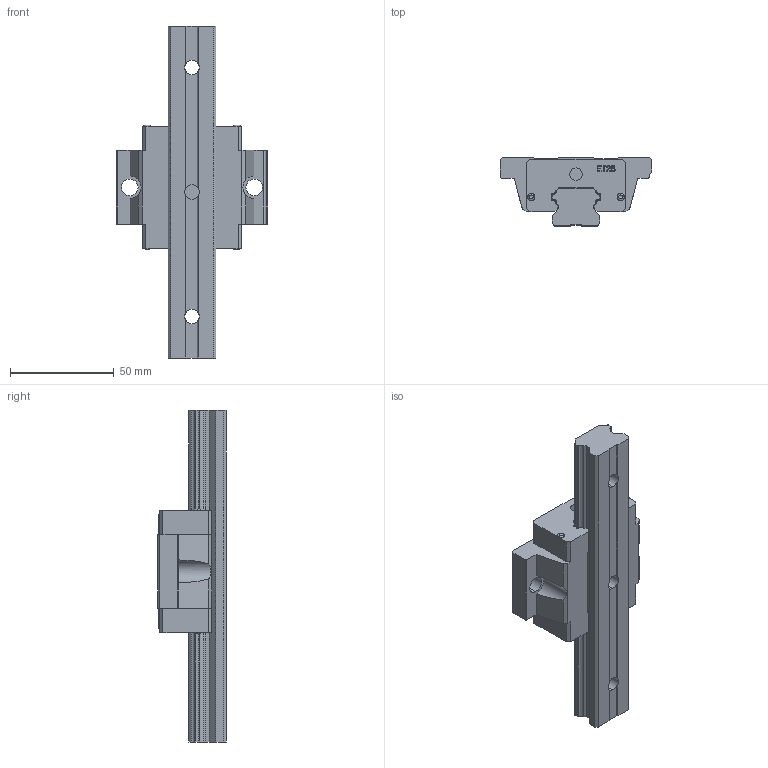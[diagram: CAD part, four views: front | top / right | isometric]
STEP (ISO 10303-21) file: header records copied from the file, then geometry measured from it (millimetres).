
FILE_DESCRIPTION (( 'STEP AP214' ), '1' );
FILE_NAME ('7.1033 Lineaarikelkka ETW25SA.STEP', '2026-03-12T11:13:06', ( '' ), ( '' ), 'SwSTEP 2.0', 'SolidWorks 2025', '' );
FILE_SCHEMA (( 'AUTOMOTIVE_DESIGN' ));
Length unit declared in the file: millimetre
Products named in the file (3): ET25_RAIL; 7.1033 Lineaarikelkka ETW25SA; ETW25SA_BLOCK
Assembly tree (2 placements, depth 2):
  7.1033 Lineaarikelkka ETW25SA
    ET25_RAIL
    ETW25SA_BLOCK
Bounding box: 73 x 33 x 160 mm (x, y, z)
Volume: 118898.9 mm3; surface area: 31020.4 mm2
Topology: 2 solids, 4 shells, 286 faces, 796 edges, 534 vertices
Faces by surface type: plane 194, cylinder 60, bspline 24, torus 8
Entity records: 14573 total; most frequent: CARTESIAN_POINT 4038, ORIENTED_EDGE 1592, DIRECTION 1400, EDGE_CURVE 796, LINE 574, VECTOR 574, VERTEX_POINT 534, AXIS2_PLACEMENT_3D 413
